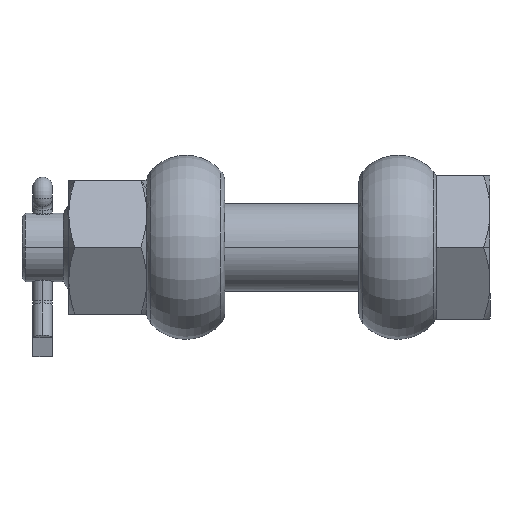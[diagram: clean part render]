
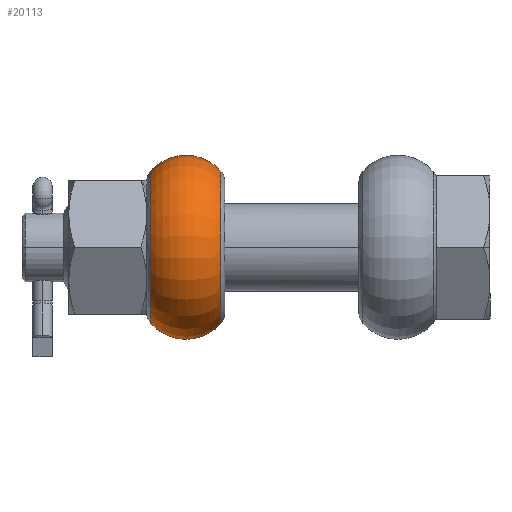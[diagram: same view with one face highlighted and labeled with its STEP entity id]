
A CAD part, front view. The second image highlights one B-rep face of the part: STEP entity #20113.
In plain terms, the highlighted toroidal (fillet/blend) face has major radius 14.5 mm and minor radius 15 mm.
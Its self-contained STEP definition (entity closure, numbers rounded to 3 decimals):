
#20113 = ADVANCED_FACE ( 'NONE', ( #21788 ), #21787, .T. ) ;
#20114 = ORIENTED_EDGE ( 'NONE', *, *, #20368, .F. ) ;
#20115 = ORIENTED_EDGE ( 'NONE', *, *, #20286, .T. ) ;
#20116 = VERTEX_POINT ( 'NONE', #24911 ) ;
#20271 = EDGE_LOOP ( 'NONE', ( #20114, #20115, #20287, #20290 ) ) ;
#20286 = EDGE_CURVE ( 'NONE', #20326, #20116, #25204, .T. ) ;
#20287 = ORIENTED_EDGE ( 'NONE', *, *, #20288, .T. ) ;
#20288 = EDGE_CURVE ( 'NONE', #20116, #20289, #25200, .T. ) ;
#20289 = VERTEX_POINT ( 'NONE', #25195 ) ;
#20290 = ORIENTED_EDGE ( 'NONE', *, *, #20291, .F. ) ;
#20291 = EDGE_CURVE ( 'NONE', #20369, #20289, #25193, .T. ) ;
#20326 = VERTEX_POINT ( 'NONE', #25878 ) ;
#20368 = EDGE_CURVE ( 'NONE', #20326, #20369, #25885, .T. ) ;
#20369 = VERTEX_POINT ( 'NONE', #25881 ) ;
#21783 = DIRECTION ( 'NONE',  ( 0., 0., -1. ) ) ;
#21784 = DIRECTION ( 'NONE',  ( 1., 0., 0. ) ) ;
#21785 = AXIS2_PLACEMENT_3D ( 'NONE', #21786, #21784, #21783 ) ;
#21786 = CARTESIAN_POINT ( 'NONE',  ( -34., 0., 0. ) ) ;
#21787 = TOROIDAL_SURFACE ( 'NONE', #21785, 14.5, 15. ) ;
#21788 = FACE_OUTER_BOUND ( 'NONE', #20271, .T. ) ;
#24911 = CARTESIAN_POINT ( 'NONE',  ( -45.25, 0., -24.422 ) ) ;
#25124 = CARTESIAN_POINT ( 'NONE',  ( -45.25, 0., 0. ) ) ;
#25188 = DIRECTION ( 'NONE',  ( 0., -1., 0. ) ) ;
#25189 = DIRECTION ( 'NONE',  ( 1., 0., 0. ) ) ;
#25190 = CARTESIAN_POINT ( 'NONE',  ( -22.75, 0., 0. ) ) ;
#25192 = AXIS2_PLACEMENT_3D ( 'NONE', #25190, #25189, #25188 ) ;
#25193 = CIRCLE ( 'NONE', #25192, 24.422 ) ;
#25195 = CARTESIAN_POINT ( 'NONE',  ( -22.75, 0., -24.422 ) ) ;
#25197 = DIRECTION ( 'NONE',  ( 0., 0., -1. ) ) ;
#25198 = DIRECTION ( 'NONE',  ( 0., -1., 0. ) ) ;
#25199 = AXIS2_PLACEMENT_3D ( 'NONE', #25205, #25198, #25197 ) ;
#25200 = CIRCLE ( 'NONE', #25199, 15. ) ;
#25201 = DIRECTION ( 'NONE',  ( 0., 0., 1. ) ) ;
#25202 = DIRECTION ( 'NONE',  ( 1., 0., 0. ) ) ;
#25203 = AXIS2_PLACEMENT_3D ( 'NONE', #25124, #25202, #25201 ) ;
#25204 = CIRCLE ( 'NONE', #25203, 24.422 ) ;
#25205 = CARTESIAN_POINT ( 'NONE',  ( -34., 0., -14.5 ) ) ;
#25878 = CARTESIAN_POINT ( 'NONE',  ( -45.25, 0., 24.422 ) ) ;
#25881 = CARTESIAN_POINT ( 'NONE',  ( -22.75, 0., 24.422 ) ) ;
#25882 = DIRECTION ( 'NONE',  ( 0., 0., 1. ) ) ;
#25883 = DIRECTION ( 'NONE',  ( 0., 1., 0. ) ) ;
#25884 = AXIS2_PLACEMENT_3D ( 'NONE', #25903, #25883, #25882 ) ;
#25885 = CIRCLE ( 'NONE', #25884, 15. ) ;
#25903 = CARTESIAN_POINT ( 'NONE',  ( -34., 0., 14.5 ) ) ;
